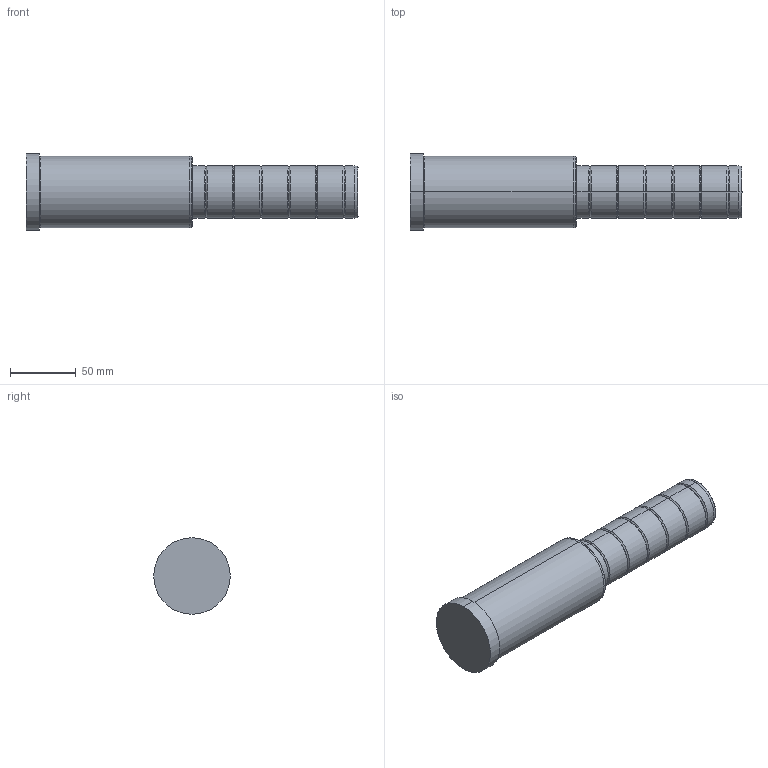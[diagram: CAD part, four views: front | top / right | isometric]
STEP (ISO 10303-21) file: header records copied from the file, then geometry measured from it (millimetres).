
FILE_DESCRIPTION( ( 'STEP AP203' ), '1' );
FILE_NAME( 'C:/Projects/D02 - 40x126x126.step', '2003-01-04T14:05:57', ( ' ' ), ( ' ' ), 'XStep 1.0', ' ', ' ' );
FILE_SCHEMA( ( 'CONFIG_CONTROL_DESIGN' ) );
Length unit declared in the file: metre
Products named in the file (1): 1
Bounding box: 252 x 58 x 58 mm (x, y, z)
Volume: 449277.9 mm3; surface area: 43216.8 mm2
Topology: 1 solids, 1 shells, 60 faces, 118 edges, 64 vertices
Faces by surface type: bspline 34, revolution 26
Entity records: 1919 total; most frequent: CARTESIAN_POINT 817, ORIENTED_EDGE 236, DIRECTION 182, EDGE_CURVE 118, AXIS2_PLACEMENT_3D 65, EDGE_LOOP 64, VERTEX_POINT 64, CIRCLE 64
